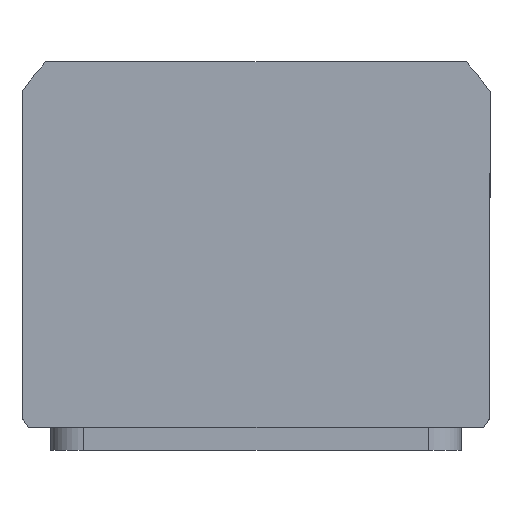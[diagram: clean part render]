
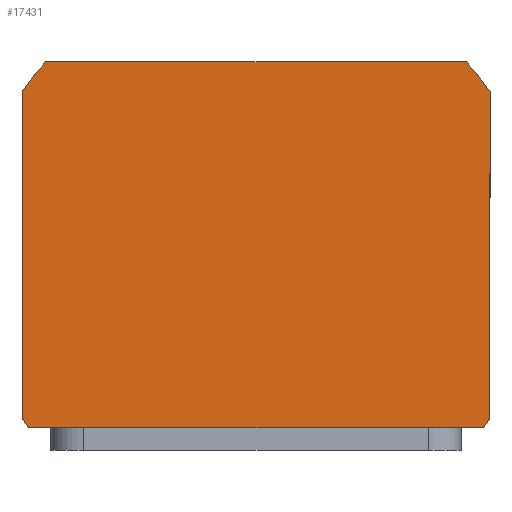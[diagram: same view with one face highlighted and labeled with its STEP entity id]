
A CAD part, top view. The second image highlights one B-rep face of the part: STEP entity #17431.
In plain terms, the highlighted planar face has unit normal (0, 0, 1) as drawn and (0, 0, -1) by its records, which use the part's own axes.
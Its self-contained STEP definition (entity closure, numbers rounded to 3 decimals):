
#201 = VERTEX_POINT ( 'NONE', #1152 ) ;
#412 = CIRCLE ( 'NONE', #21416, 69.5 ) ;
#714 = ORIENTED_EDGE ( 'NONE', *, *, #807, .F. ) ;
#807 = EDGE_CURVE ( 'NONE', #15458, #8572, #18149, .T. ) ;
#989 = CARTESIAN_POINT ( 'NONE',  ( -57., -37.256, 0. ) ) ;
#1013 = ORIENTED_EDGE ( 'NONE', *, *, #10975, .F. ) ;
#1074 = CIRCLE ( 'NONE', #19006, 69.5 ) ;
#1152 = CARTESIAN_POINT ( 'NONE',  ( 57., 42.273, 0. ) ) ;
#1485 = EDGE_CURVE ( 'NONE', #10761, #20083, #18412, .T. ) ;
#1515 = CARTESIAN_POINT ( 'NONE',  ( 57., 44.5, 0. ) ) ;
#1657 = DIRECTION ( 'NONE',  ( 0., -1., 0. ) ) ;
#1831 = ORIENTED_EDGE ( 'NONE', *, *, #2293, .F. ) ;
#2293 = EDGE_CURVE ( 'NONE', #21539, #15458, #412, .T. ) ;
#3296 = DIRECTION ( 'NONE',  ( 0., 1., 0. ) ) ;
#3755 = AXIS2_PLACEMENT_3D ( 'NONE', #17190, #6577, #18950 ) ;
#4230 = CARTESIAN_POINT ( 'NONE',  ( 57., -37.256, 0. ) ) ;
#4278 = AXIS2_PLACEMENT_3D ( 'NONE', #5093, #6877, #19252 ) ;
#4404 = ORIENTED_EDGE ( 'NONE', *, *, #13580, .F. ) ;
#4730 = DIRECTION ( 'NONE',  ( 0., 0., 1. ) ) ;
#4881 = VERTEX_POINT ( 'NONE', #18005 ) ;
#5093 = CARTESIAN_POINT ( 'NONE',  ( 0., 0., 0. ) ) ;
#5573 = EDGE_CURVE ( 'NONE', #15408, #201, #17700, .T. ) ;
#5702 = EDGE_LOOP ( 'NONE', ( #4404, #8865, #11505, #714, #1831, #1013, #16544, #22559 ) ) ;
#6577 = DIRECTION ( 'NONE',  ( 0., 0., 1. ) ) ;
#6739 = EDGE_CURVE ( 'NONE', #8572, #15408, #1074, .T. ) ;
#6877 = DIRECTION ( 'NONE',  ( 0., 0., 1. ) ) ;
#7153 = CARTESIAN_POINT ( 'NONE',  ( 0., 2.508, 0. ) ) ;
#7695 = CARTESIAN_POINT ( 'NONE',  ( 0., 2.508, 0. ) ) ;
#8572 = VERTEX_POINT ( 'NONE', #16804 ) ;
#8580 = AXIS2_PLACEMENT_3D ( 'NONE', #7695, #20063, #9490 ) ;
#8865 = ORIENTED_EDGE ( 'NONE', *, *, #5573, .F. ) ;
#8943 = DIRECTION ( 'NONE',  ( 1., 0., 0. ) ) ;
#9490 = DIRECTION ( 'NONE',  ( 1., 0., 0. ) ) ;
#9851 = CIRCLE ( 'NONE', #8580, 69.5 ) ;
#10761 = VERTEX_POINT ( 'NONE', #16987 ) ;
#10975 = EDGE_CURVE ( 'NONE', #20083, #21539, #15977, .T. ) ;
#11172 = VECTOR ( 'NONE', #15551, 1000. ) ;
#11505 = ORIENTED_EDGE ( 'NONE', *, *, #6739, .F. ) ;
#12237 = CARTESIAN_POINT ( 'NONE',  ( -57., -44.5, 0. ) ) ;
#13008 = VECTOR ( 'NONE', #3296, 1000. ) ;
#13580 = EDGE_CURVE ( 'NONE', #201, #4881, #9851, .T. ) ;
#13772 = CARTESIAN_POINT ( 'NONE',  ( -57., 44.5, 0. ) ) ;
#14050 = CARTESIAN_POINT ( 'NONE',  ( -57., 44.5, 0. ) ) ;
#14728 = FACE_OUTER_BOUND ( 'NONE', #5702, .T. ) ;
#15337 = CARTESIAN_POINT ( 'NONE',  ( 0., 2.508, 0. ) ) ;
#15408 = VERTEX_POINT ( 'NONE', #4230 ) ;
#15458 = VERTEX_POINT ( 'NONE', #18545 ) ;
#15551 = DIRECTION ( 'NONE',  ( -1., 0., 0. ) ) ;
#15977 = LINE ( 'NONE', #14050, #20668 ) ;
#16544 = ORIENTED_EDGE ( 'NONE', *, *, #1485, .F. ) ;
#16804 = CARTESIAN_POINT ( 'NONE',  ( 51.19, -44.5, 0. ) ) ;
#16987 = CARTESIAN_POINT ( 'NONE',  ( -55.38, 44.5, 0. ) ) ;
#17110 = DIRECTION ( 'NONE',  ( 1., 0., 0. ) ) ;
#17190 = CARTESIAN_POINT ( 'NONE',  ( 0., 2.508, 0. ) ) ;
#17431 = ADVANCED_FACE ( 'NONE', ( #14728 ), #22591, .F. ) ;
#17700 = LINE ( 'NONE', #1515, #13008 ) ;
#18005 = CARTESIAN_POINT ( 'NONE',  ( 55.38, 44.5, 0. ) ) ;
#18149 = LINE ( 'NONE', #12237, #22861 ) ;
#18412 = CIRCLE ( 'NONE', #3755, 69.5 ) ;
#18545 = CARTESIAN_POINT ( 'NONE',  ( -51.19, -44.5, 0. ) ) ;
#18950 = DIRECTION ( 'NONE',  ( 1., 0., 0. ) ) ;
#19006 = AXIS2_PLACEMENT_3D ( 'NONE', #7153, #19532, #8943 ) ;
#19179 = DIRECTION ( 'NONE',  ( 1., 0., 0. ) ) ;
#19252 = DIRECTION ( 'NONE',  ( 1., 0., 0. ) ) ;
#19532 = DIRECTION ( 'NONE',  ( 0., 0., 1. ) ) ;
#20063 = DIRECTION ( 'NONE',  ( 0., 0., 1. ) ) ;
#20083 = VERTEX_POINT ( 'NONE', #20145 ) ;
#20145 = CARTESIAN_POINT ( 'NONE',  ( -57., 42.273, 0. ) ) ;
#20555 = LINE ( 'NONE', #13772, #11172 ) ;
#20668 = VECTOR ( 'NONE', #1657, 1000. ) ;
#21416 = AXIS2_PLACEMENT_3D ( 'NONE', #15337, #4730, #17110 ) ;
#21539 = VERTEX_POINT ( 'NONE', #989 ) ;
#21687 = EDGE_CURVE ( 'NONE', #4881, #10761, #20555, .T. ) ;
#22559 = ORIENTED_EDGE ( 'NONE', *, *, #21687, .F. ) ;
#22591 = PLANE ( 'NONE',  #4278 ) ;
#22861 = VECTOR ( 'NONE', #19179, 1000. ) ;
